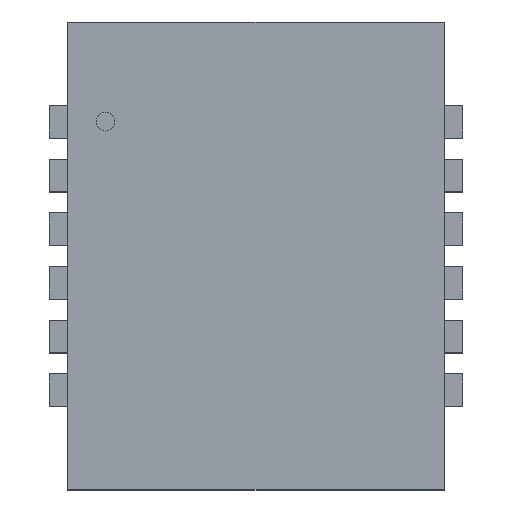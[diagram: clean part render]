
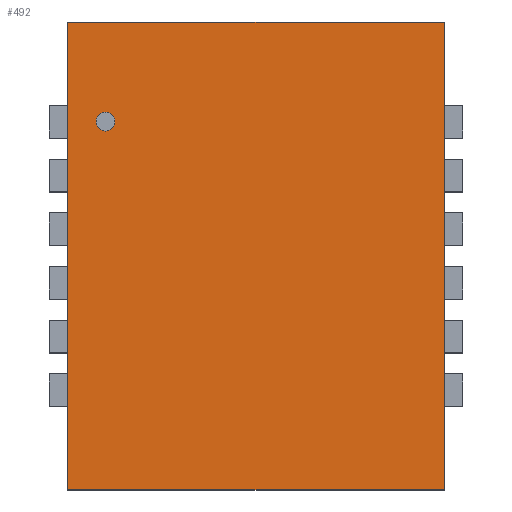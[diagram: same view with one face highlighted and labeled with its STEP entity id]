
A CAD part, top view. The second image highlights one B-rep face of the part: STEP entity #492.
In plain terms, the highlighted planar face has unit normal (0, 0, 1).
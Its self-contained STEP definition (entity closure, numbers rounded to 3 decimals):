
#268=CARTESIAN_POINT('',(3.505,-4.356,3.404));
#267=VERTEX_POINT('',#268);
#278=CARTESIAN_POINT('',(-3.505,-4.356,3.404));
#277=VERTEX_POINT('',#278);
#276=EDGE_CURVE('',#277,#267,#281,.T.);
#281=LINE('',#278,#283);
#283=VECTOR('',#284,7.01);
#284=DIRECTION('',(1.0,0.0,0.0));
#317=CARTESIAN_POINT('',(3.505,4.356,3.404));
#316=VERTEX_POINT('',#317);
#325=EDGE_CURVE('',#267,#316,#330,.T.);
#330=LINE('',#268,#332);
#332=VECTOR('',#333,8.712);
#333=DIRECTION('',(0.0,1.0,0.0));
#366=CARTESIAN_POINT('',(-3.505,4.356,3.404));
#365=VERTEX_POINT('',#366);
#374=EDGE_CURVE('',#316,#365,#379,.T.);
#379=LINE('',#317,#381);
#381=VECTOR('',#382,7.01);
#382=DIRECTION('',(-1.0,0.0,0.0));
#423=EDGE_CURVE('',#365,#277,#428,.T.);
#428=LINE('',#366,#430);
#430=VECTOR('',#431,8.712);
#431=DIRECTION('',(0.0,-1.0,0.0));
#492=ADVANCED_FACE('',(#498),#493,.T.);
#493=PLANE('',#494);
#494=AXIS2_PLACEMENT_3D('',#495,#496,#497);
#495=CARTESIAN_POINT('',(-3.505,-4.356,3.404));
#496=DIRECTION('',(0.0,0.0,1.0));
#497=DIRECTION('',(0.,1.,0.));
#498=FACE_OUTER_BOUND('',#499,.T.);
#499=EDGE_LOOP('',(#500,#510,#520,#530));
#500=ORIENTED_EDGE('',*,*,#276,.T.);
#510=ORIENTED_EDGE('',*,*,#325,.T.);
#520=ORIENTED_EDGE('',*,*,#374,.T.);
#530=ORIENTED_EDGE('',*,*,#423,.T.);
